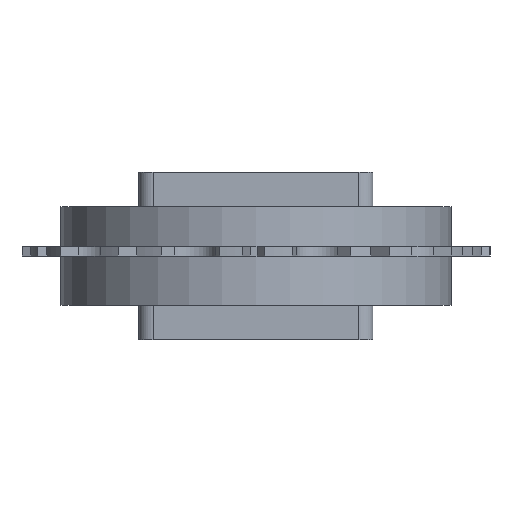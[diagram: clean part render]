
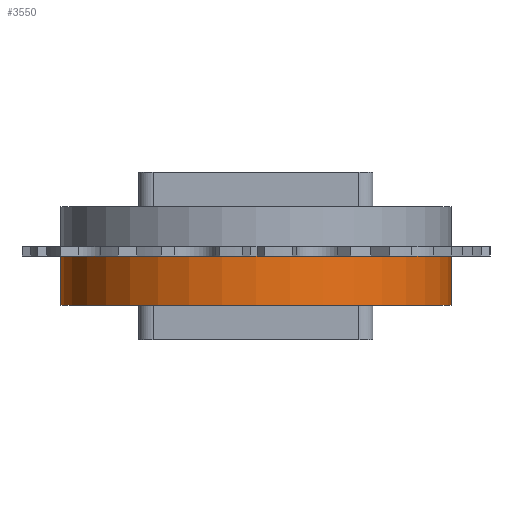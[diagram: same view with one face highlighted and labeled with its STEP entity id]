
A CAD part, front view. The second image highlights one B-rep face of the part: STEP entity #3550.
In plain terms, the highlighted cylindrical face has radius 41.75 mm (diameter 83.5 mm), a partial arc.
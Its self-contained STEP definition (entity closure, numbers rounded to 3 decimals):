
#1426=CARTESIAN_POINT('Axis2P3D Location',(0.,0.,-10.5)) ;
#1430=CARTESIAN_POINT('Vertex',(-41.75,0.,-10.5)) ;
#1432=CARTESIAN_POINT('Vertex',(41.75,0.,-10.5)) ;
#3508=CARTESIAN_POINT('Axis2P3D Location',(0.,0.,0.)) ;
#3513=CARTESIAN_POINT('Line Origine',(41.75,0.,0.)) ;
#3517=CARTESIAN_POINT('Vertex',(41.75,0.,0.)) ;
#3520=CARTESIAN_POINT('Line Origine',(-41.75,0.,0.)) ;
#3524=CARTESIAN_POINT('Vertex',(-41.75,0.,0.)) ;
#3539=CARTESIAN_POINT('Axis2P3D Location',(0.,0.,0.)) ;
#1427=DIRECTION('Axis2P3D Direction',(0.,0.,1.)) ;
#3509=DIRECTION('Axis2P3D Direction',(0.,0.,1.)) ;
#3510=DIRECTION('Axis2P3D XDirection',(1.,0.,0.)) ;
#3514=DIRECTION('Vector Direction',(0.,0.,1.)) ;
#3521=DIRECTION('Vector Direction',(0.,0.,1.)) ;
#3540=DIRECTION('Axis2P3D Direction',(0.,0.,1.)) ;
#1428=AXIS2_PLACEMENT_3D('Circle Axis2P3D',#1426,#1427,$) ;
#3511=AXIS2_PLACEMENT_3D('Cylinder Axis2P3D',#3508,#3509,#3510) ;
#3541=AXIS2_PLACEMENT_3D('Circle Axis2P3D',#3539,#3540,$) ;
#3545=ORIENTED_EDGE('',*,*,#3526,.F.) ;
#3546=ORIENTED_EDGE('',*,*,#1434,.T.) ;
#3547=ORIENTED_EDGE('',*,*,#3519,.T.) ;
#3548=ORIENTED_EDGE('',*,*,#3543,.F.) ;
#3515=VECTOR('Line Direction',#3514,1.) ;
#3522=VECTOR('Line Direction',#3521,1.) ;
#3550=ADVANCED_FACE('PartBody',(#3549),#3512,.T.) ;
#1429=CIRCLE('generated circle',#1428,41.75) ;
#3542=CIRCLE('generated circle',#3541,41.75) ;
#3512=CYLINDRICAL_SURFACE('generated cylinder',#3511,41.75) ;
#1434=EDGE_CURVE('',#1431,#1433,#1429,.T.) ;
#3519=EDGE_CURVE('',#1433,#3518,#3516,.T.) ;
#3526=EDGE_CURVE('',#1431,#3525,#3523,.T.) ;
#3543=EDGE_CURVE('',#3525,#3518,#3542,.T.) ;
#3544=EDGE_LOOP('',(#3545,#3546,#3547,#3548)) ;
#3549=FACE_OUTER_BOUND('',#3544,.T.) ;
#3516=LINE('Line',#3513,#3515) ;
#3523=LINE('Line',#3520,#3522) ;
#1431=VERTEX_POINT('',#1430) ;
#1433=VERTEX_POINT('',#1432) ;
#3518=VERTEX_POINT('',#3517) ;
#3525=VERTEX_POINT('',#3524) ;
